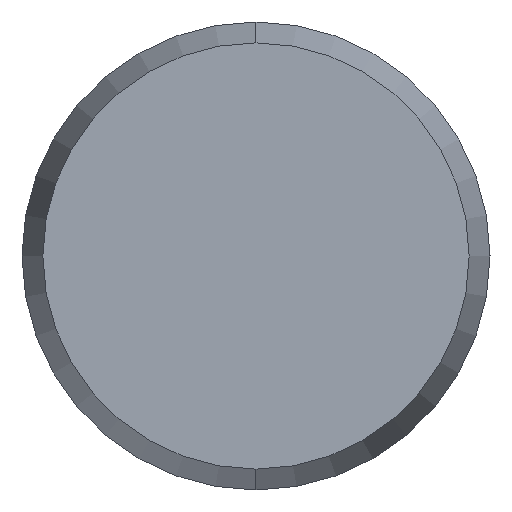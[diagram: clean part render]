
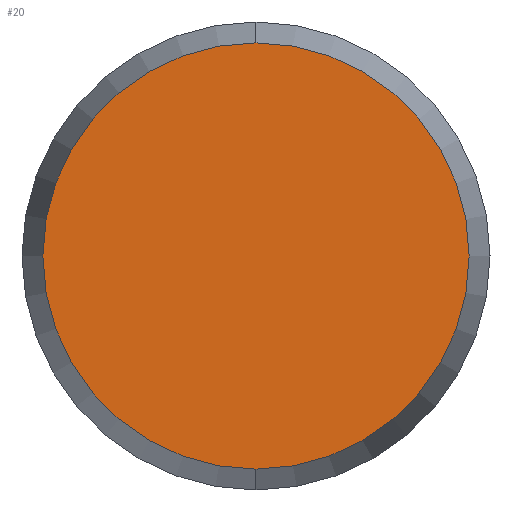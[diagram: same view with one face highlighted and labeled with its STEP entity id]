
A CAD part, left-side view. The second image highlights one B-rep face of the part: STEP entity #20.
In plain terms, the highlighted planar face has unit normal (-1, 0, 0).
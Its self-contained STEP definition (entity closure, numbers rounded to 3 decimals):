
#17 = EDGE_CURVE ( 'NONE', #33, #32, #53, .T. ) ;
#20 = ADVANCED_FACE ( 'NONE', ( #45 ), #44, .F. ) ;
#21 = EDGE_LOOP ( 'NONE', ( #22, #23 ) ) ;
#22 = ORIENTED_EDGE ( 'NONE', *, *, #31, .F. ) ;
#23 = ORIENTED_EDGE ( 'NONE', *, *, #17, .F. ) ;
#31 = EDGE_CURVE ( 'NONE', #32, #33, #120, .T. ) ;
#32 = VERTEX_POINT ( 'NONE', #115 ) ;
#33 = VERTEX_POINT ( 'NONE', #114 ) ;
#38 = DIRECTION ( 'NONE',  ( 0., 0., -1. ) ) ;
#39 = DIRECTION ( 'NONE',  ( 1., 0., 0. ) ) ;
#40 = CARTESIAN_POINT ( 'NONE',  ( -10., 0., 0. ) ) ;
#43 = AXIS2_PLACEMENT_3D ( 'NONE', #40, #39, #38 ) ;
#44 = PLANE ( 'NONE',  #43 ) ;
#45 = FACE_OUTER_BOUND ( 'NONE', #21, .T. ) ;
#46 = DIRECTION ( 'NONE',  ( 0., 0., -1. ) ) ;
#47 = DIRECTION ( 'NONE',  ( 1., 0., 0. ) ) ;
#48 = CARTESIAN_POINT ( 'NONE',  ( -10., 0., 0. ) ) ;
#49 = AXIS2_PLACEMENT_3D ( 'NONE', #48, #47, #46 ) ;
#53 = CIRCLE ( 'NONE', #49, 1.366 ) ;
#114 = CARTESIAN_POINT ( 'NONE',  ( -10., 0., -1.366 ) ) ;
#115 = CARTESIAN_POINT ( 'NONE',  ( -10., 0., 1.366 ) ) ;
#116 = DIRECTION ( 'NONE',  ( 0., 0., -1. ) ) ;
#117 = DIRECTION ( 'NONE',  ( 1., 0., 0. ) ) ;
#118 = CARTESIAN_POINT ( 'NONE',  ( -10., 0., 0. ) ) ;
#119 = AXIS2_PLACEMENT_3D ( 'NONE', #118, #117, #116 ) ;
#120 = CIRCLE ( 'NONE', #119, 1.366 ) ;
